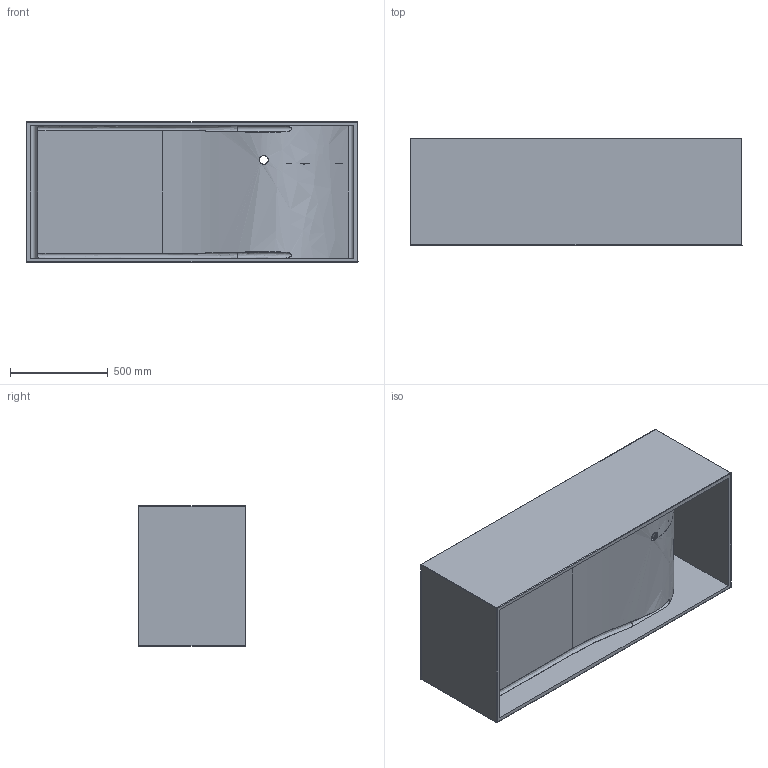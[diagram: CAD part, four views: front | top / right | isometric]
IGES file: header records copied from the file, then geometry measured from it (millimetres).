
Start section: SolidWorks IGES file using analytic representation for surfaces
Global section: file name: L:\TOPBATH\CD\高清CD\Jpg & Drawing\Bathtub\TC-S38\DRAWING\3D\TC-S38.IGS,1; native system: 5HSolidWorks 2016; preprocessor: SolidWorks 2016; author: Administrator; date: 181121.154613; units: millimetre
Bounding box: 1700 x 550 x 720 mm (x, y, z)
Surface area: 7707199.3 mm2 (no closed solid volume)
Topology: 0 solids, 0 shells, 71 faces, 1304 edges, 1296 vertices
Faces by surface type: revolution 39, bspline 32
